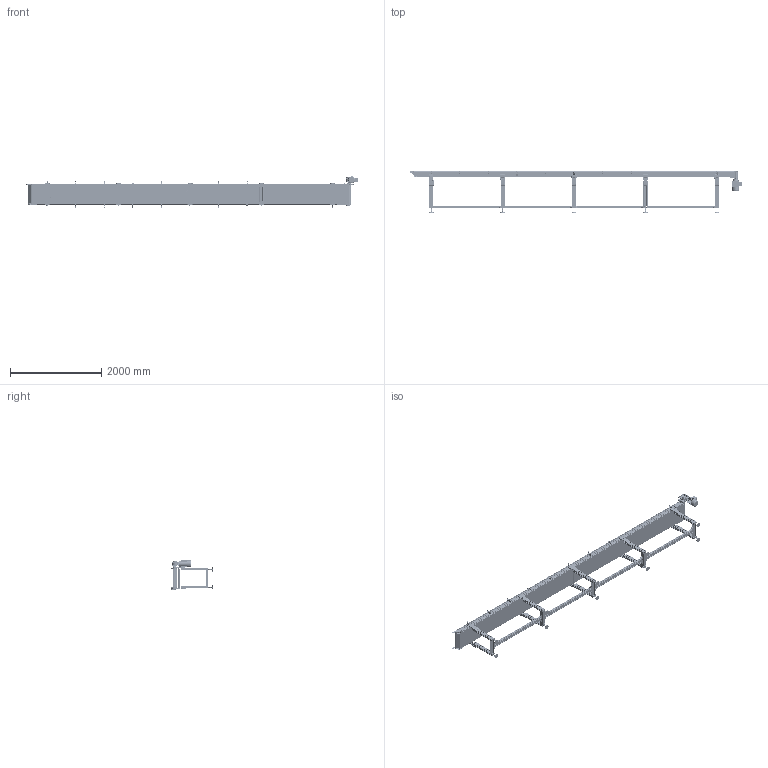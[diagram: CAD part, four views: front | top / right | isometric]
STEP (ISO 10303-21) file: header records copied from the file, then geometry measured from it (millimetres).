
FILE_DESCRIPTION (( 'STEP AP203' ), '1' );
FILE_NAME ('NASTRO_RETTILINEO_TAPPETO.step', '2026-06-05T11:55:47', ( 'Utente Windows' ), ( '' ), 'SwSTEP 2.0', 'SolidWorks 2024', '' );
FILE_SCHEMA (( 'CONFIG_CONTROL_DESIGN' ));
Length unit declared in the file: millimetre
Products named in the file (88): PIEDE_95; 084.802.014; VITE_RONDELLA_M8X20; 084.802.013-2; 084.808.013; 084.802.036; 084.303.001; 084.405.001; RULLO_95_PENNA; VITI TCEI UNI 5931_M4x25 UNI 5931; VITI TE UNI 5739_M8x16 UNI 5739; TRAVERSA_95_Default<A macchina>; 084.812.004; 084.802.060_Default<A macchina>; GRANI A PUNTA CONICA UNI 5927_M6x16 UNI 5927; PERNO_SUP_95_PENNA; 084.808.002_084.808.002; BLOCCO_PERNO_95_RINVIO; VITI TSEI UNI 5933_M8x30 UNI 5933; 084.711.006_L2; VITE_DADO_M5X12; 084.810.003; 2010.000.074; 084.302.060; VITI TSEI UNI 5933_M4x12 UNI 5933; 084.802.019_084.802.019; 084.812.003; BLOCCO_PERNO_95_63; 084.711.006_PER CAVA 8 PERNO ALTO 1; 084.802.028; 084.402.005; SPONDA_Default<A macchina>; 456.015.101_456.015.101 DX; 084.301.000 VITI ALUSIC1_084.301.003; 30UNI7435; BLOCCO_REGGITAPPETO; 084.302.000 DADI ALUSIC 13x13-1_084.302.007; 084.712.005; RONDELLE UNI 6592_8.4x17 UNI 6592; 084.302.000 DADI ALUSIC 13x13-1_084.302.009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
Assembly tree (342 placements, depth 4):
  NASTRO_RETTILINEO_TAPPETO
    TAPPETO_STANDARD_1PENNA
    TELAIO_95_STANDARD_Default<A macchina>
    LAMIERA_1_PENNA  x4
    RULLO_95_Default<A macchina>
    BLOCCO_PERNO_95_63
      084.812.004
      084.810.003
      CHIAVETTE_A 8x7x70 UNI 6604-69
      RONDELLE FASCIA LARGA UNI 6593_8.4x32 UNI 6593
      VITI TE UNI 5739_M8x16 UNI 5739
      CHIAVETTE_A 8x7x20 UNI 6604-69
      30UNI7435
    BLOCCO_TRAINO_95_STANDARD_63
      084.808.003_084.808.003
      084.302.060  x2
      084.802.034_084.802.034
      084.301.000 VITI ALUSIC_084.301.003  x6
      084.802.067_Default<A macchina>
      VITI TCEI UNI 5931_M4x25 UNI 5931  x2
      BLOCCO_BRACCIO_CH06P_CH06P
        084.808.013
        084.802.062
        0820ISO2342
        084.802.060_Default<A macchina>
        VITI TE UNI 5739_M8x12 UNI 5739  x12
    BLOCCO_PERNO_95_RINVIO
      084.812.003
      084.810.003
      30UNI7435
    BLOCCO_TRAINO_95_STANDARD_CON TENDINASTRO E CARTER
      084.808.002_084.808.002
      084.302.060  x2
      084.802.019_084.802.019
      084.301.000 VITI ALUSIC_084.301.003  x6
      VITI TCEI UNI 5931_M4x25 UNI 5931  x2
      084.802.071
      084.802.068
      VITI TSEI UNI 5933_M4x12 UNI 5933  x2
    RULLO_95_PENNA  x2
    BLOCCO_RINVIO_95_PENNA_SX
      456.015.101_456.015.101 SX
      084.802.036  x2
      084.301.000 VITI ALUSIC_084.301.003  x4
      VITI TE UNI 5739_M6x70 UNI 5739
      VITI TSEI UNI 5933_M8x30 UNI 5933
      084.302.016  x2
      12UNI7435  x2
    BLOCCO_RINVIO_95_PENNA_DX
      456.015.101_456.015.101 DX
      084.802.036  x2
      084.301.000 VITI ALUSIC_084.301.003  x4
      VITI TE UNI 5739_M6x70 UNI 5739
      VITI TSEI UNI 5933_M8x30 UNI 5933
      084.302.016  x2
      12UNI7435  x2
    PERNO_SUP_95_PENNA
    PERNO_INF_95_PENNA
    SPONDA_Default<A macchina>  x2
    084.711.006_PER CAVA 8 PERNO ALTO 1  x18
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Bounding box: 7263.43 x 920.5 x 687.43 mm (x, y, z)
Volume: 70871454.6 mm3; surface area: 51914865 mm2
Topology: 884 solids, 893 shells, 40348 faces, 103301 edges, 65083 vertices
Faces by surface type: plane 16704, cylinder 12146, bspline 4353, cone 3378, torus 3187, sphere 580
Entity records: 344035 total; most frequent: CARTESIAN_POINT 115281, ORIENTED_EDGE 46418, DIRECTION 42216, EDGE_CURVE 23209, VERTEX_POINT 14960, AXIS2_PLACEMENT_3D 14309, LINE 13598, VECTOR 13598
